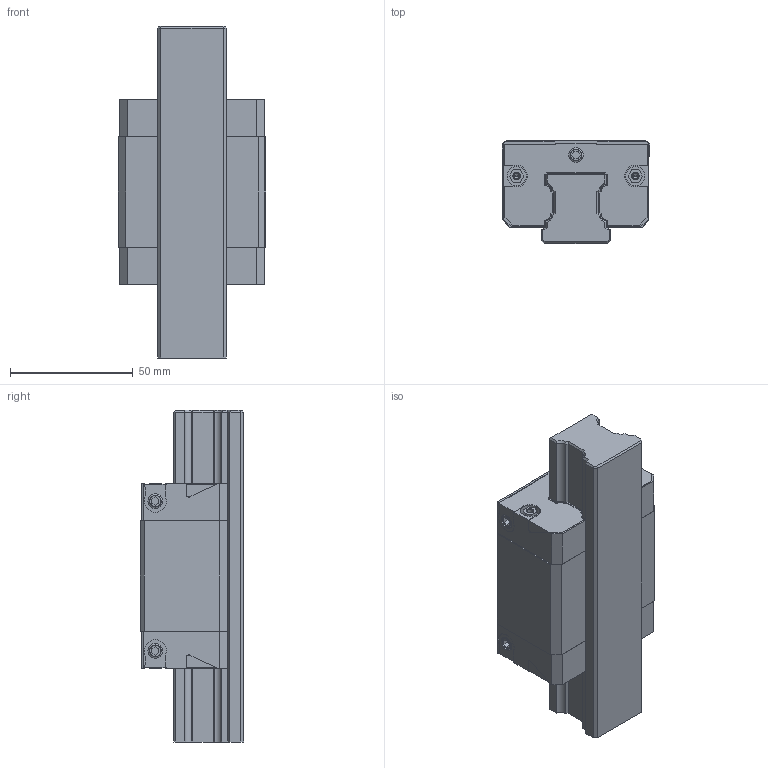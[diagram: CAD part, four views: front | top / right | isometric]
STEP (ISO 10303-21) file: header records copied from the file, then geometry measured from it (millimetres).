
FILE_DESCRIPTION((''),'2;1');
FILE_NAME('R1662_SIZE30_ASM','2020-04-16T04:09:16',('ac91sw'),(''),'CREO PARAMETRIC BY PTC INC, 2018420','CREO PARAMETRIC BY PTC INC, 2018420','');
FILE_SCHEMA(('AUTOMOTIVE_DESIGN { 1 0 10303 214 1 1 1 1 }'));
Length unit declared in the file: millimetre
Products named in the file (6): R1662_SIZE30_SKEL; R201070101; R200170102_Z; R343706101_Z; R1662_SIZE30_PSF; R1662_SIZE30_ASM
Assembly tree (11 placements, depth 2):
  R1662_SIZE30_ASM
    R1662_SIZE30_SKEL
    R201070101
    R200170102_Z  x2
    R343706101_Z  x6
    R1662_SIZE30_PSF
Bounding box: 60 x 42 x 135.3 mm (x, y, z)
Volume: 189702.7 mm3; surface area: 52139.3 mm2
Topology: 10 solids, 22 shells, 474 faces, 1224 edges, 780 vertices
Faces by surface type: plane 288, cylinder 130, cone 56
Entity records: 12928 total; most frequent: CARTESIAN_POINT 1575, DIRECTION 1372, ORIENTED_EDGE 1312, EDGE_CURVE 666, PROPERTY_DEFINITION 546, REPRESENTATION 539, PROPERTY_DEFINITION_REPRESENTATION 539, VECTOR 498
